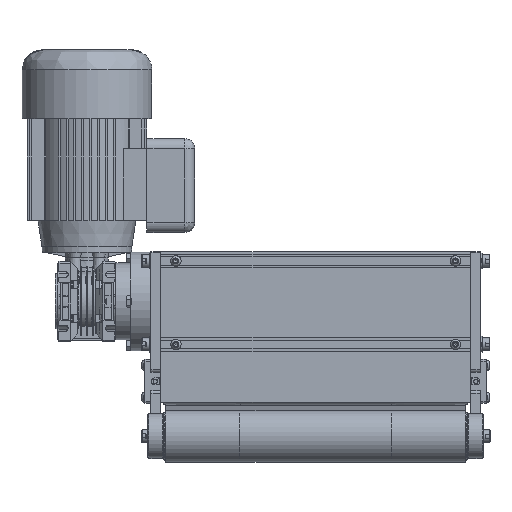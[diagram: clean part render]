
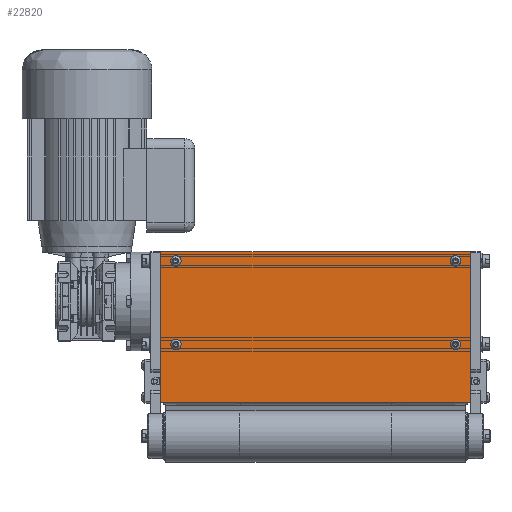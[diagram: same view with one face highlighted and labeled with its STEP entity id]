
A CAD part, left-side view. The second image highlights one B-rep face of the part: STEP entity #22820.
In plain terms, the highlighted planar face has unit normal (-1, 0, 0) as drawn and (0, 0, 1) by its records, which use the part's own axes.
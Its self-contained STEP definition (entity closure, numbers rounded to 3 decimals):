
#399 = DIRECTION ( 'NONE',  ( 1., 0., 0. ) ) ;
#988 = DIRECTION ( 'NONE',  ( 0., 0., 1. ) ) ;
#2047 = VECTOR ( 'NONE', #37861, 1000. ) ;
#3656 = FACE_BOUND ( 'NONE', #39726, .T. ) ;
#3972 = CIRCLE ( 'NONE', #17700, 3. ) ;
#4102 = CARTESIAN_POINT ( 'NONE',  ( 310., 141.5, 150. ) ) ;
#4463 = CARTESIAN_POINT ( 'NONE',  ( 295., 0., 150. ) ) ;
#4616 = CARTESIAN_POINT ( 'NONE',  ( 298., 0., 150. ) ) ;
#7173 = VERTEX_POINT ( 'NONE', #16555 ) ;
#7652 = DIRECTION ( 'NONE',  ( 1., 0., 0. ) ) ;
#7792 = EDGE_CURVE ( 'NONE', #47604, #32198, #12424, .T. ) ;
#8246 = PLANE ( 'NONE',  #15893 ) ;
#8847 = EDGE_LOOP ( 'NONE', ( #50166 ) ) ;
#8926 = VERTEX_POINT ( 'NONE', #4616 ) ;
#9230 = EDGE_CURVE ( 'NONE', #8926, #8926, #3972, .T. ) ;
#10152 = LINE ( 'NONE', #27565, #21951 ) ;
#11140 = CIRCLE ( 'NONE', #55835, 3. ) ;
#11339 = EDGE_LOOP ( 'NONE', ( #14596 ) ) ;
#11681 = DIRECTION ( 'NONE',  ( -1., 0., 0. ) ) ;
#11686 = FACE_OUTER_BOUND ( 'NONE', #43660, .T. ) ;
#12424 = LINE ( 'NONE', #29823, #2047 ) ;
#13545 = DIRECTION ( 'NONE',  ( 0., 0., 1. ) ) ;
#14596 = ORIENTED_EDGE ( 'NONE', *, *, #16789, .F. ) ;
#15236 = EDGE_CURVE ( 'NONE', #32198, #19511, #10152, .T. ) ;
#15893 = AXIS2_PLACEMENT_3D ( 'NONE', #29661, #38249, #42825 ) ;
#16225 = FACE_BOUND ( 'NONE', #8847, .T. ) ;
#16486 = VERTEX_POINT ( 'NONE', #29910 ) ;
#16555 = CARTESIAN_POINT ( 'NONE',  ( 18., 0., 150. ) ) ;
#16789 = EDGE_CURVE ( 'NONE', #7173, #7173, #11140, .T. ) ;
#17226 = CARTESIAN_POINT ( 'NONE',  ( 15., 83.5, 150. ) ) ;
#17262 = CARTESIAN_POINT ( 'NONE',  ( 15., 0., 150. ) ) ;
#17451 = ORIENTED_EDGE ( 'NONE', *, *, #29670, .F. ) ;
#17700 = AXIS2_PLACEMENT_3D ( 'NONE', #4463, #988, #7652 ) ;
#18223 = CIRCLE ( 'NONE', #52886, 3. ) ;
#19511 = VERTEX_POINT ( 'NONE', #22859 ) ;
#19799 = CARTESIAN_POINT ( 'NONE',  ( 295., 83.5, 150. ) ) ;
#21534 = DIRECTION ( 'NONE',  ( 0., 0., 1. ) ) ;
#21718 = EDGE_CURVE ( 'NONE', #21920, #19511, #52493, .T. ) ;
#21920 = VERTEX_POINT ( 'NONE', #33590 ) ;
#21951 = VECTOR ( 'NONE', #45280, 1000. ) ;
#22820 = ADVANCED_FACE ( 'NONE', ( #3656, #47101, #16225, #50823, #11686 ), #8246, .T. ) ;
#22859 = CARTESIAN_POINT ( 'NONE',  ( 0., 141.5, 150. ) ) ;
#24612 = ORIENTED_EDGE ( 'NONE', *, *, #9230, .F. ) ;
#25188 = EDGE_LOOP ( 'NONE', ( #24612 ) ) ;
#25813 = ORIENTED_EDGE ( 'NONE', *, *, #7792, .T. ) ;
#26848 = CIRCLE ( 'NONE', #38742, 3. ) ;
#27565 = CARTESIAN_POINT ( 'NONE',  ( 461.03, 141.5, 150. ) ) ;
#28363 = DIRECTION ( 'NONE',  ( 1., 0., 0. ) ) ;
#29661 = CARTESIAN_POINT ( 'NONE',  ( 461.03, 141.5, 150. ) ) ;
#29670 = EDGE_CURVE ( 'NONE', #16486, #16486, #18223, .T. ) ;
#29823 = CARTESIAN_POINT ( 'NONE',  ( 310., 141.5, 150. ) ) ;
#29910 = CARTESIAN_POINT ( 'NONE',  ( 18., 83.5, 150. ) ) ;
#30763 = CARTESIAN_POINT ( 'NONE',  ( 0., 141.5, 150. ) ) ;
#31999 = VECTOR ( 'NONE', #11681, 1000. ) ;
#32198 = VERTEX_POINT ( 'NONE', #4102 ) ;
#33590 = CARTESIAN_POINT ( 'NONE',  ( 0., -9.5, 150. ) ) ;
#35318 = ORIENTED_EDGE ( 'NONE', *, *, #15236, .T. ) ;
#35921 = DIRECTION ( 'NONE',  ( 0., 1., 0. ) ) ;
#36658 = DIRECTION ( 'NONE',  ( 0., 0., 1. ) ) ;
#37861 = DIRECTION ( 'NONE',  ( 0., 1., 0. ) ) ;
#38249 = DIRECTION ( 'NONE',  ( 0., 0., 1. ) ) ;
#38742 = AXIS2_PLACEMENT_3D ( 'NONE', #19799, #36658, #28363 ) ;
#39285 = CARTESIAN_POINT ( 'NONE',  ( 310., -9.5, 150. ) ) ;
#39726 = EDGE_LOOP ( 'NONE', ( #17451 ) ) ;
#41900 = VERTEX_POINT ( 'NONE', #56355 ) ;
#41962 = EDGE_CURVE ( 'NONE', #47604, #21920, #46823, .T. ) ;
#42825 = DIRECTION ( 'NONE',  ( 1., 0., 0. ) ) ;
#43660 = EDGE_LOOP ( 'NONE', ( #53865, #25813, #35318, #53997 ) ) ;
#44102 = DIRECTION ( 'NONE',  ( 1., 0., 0. ) ) ;
#45280 = DIRECTION ( 'NONE',  ( -1., 0., 0. ) ) ;
#46553 = EDGE_CURVE ( 'NONE', #41900, #41900, #26848, .T. ) ;
#46823 = LINE ( 'NONE', #47381, #31999 ) ;
#47101 = FACE_BOUND ( 'NONE', #11339, .T. ) ;
#47381 = CARTESIAN_POINT ( 'NONE',  ( 461.03, -9.5, 150. ) ) ;
#47604 = VERTEX_POINT ( 'NONE', #39285 ) ;
#50166 = ORIENTED_EDGE ( 'NONE', *, *, #46553, .F. ) ;
#50294 = VECTOR ( 'NONE', #35921, 1000. ) ;
#50823 = FACE_BOUND ( 'NONE', #25188, .T. ) ;
#52493 = LINE ( 'NONE', #30763, #50294 ) ;
#52886 = AXIS2_PLACEMENT_3D ( 'NONE', #17226, #21534, #44102 ) ;
#53865 = ORIENTED_EDGE ( 'NONE', *, *, #41962, .F. ) ;
#53997 = ORIENTED_EDGE ( 'NONE', *, *, #21718, .F. ) ;
#55835 = AXIS2_PLACEMENT_3D ( 'NONE', #17262, #13545, #399 ) ;
#56355 = CARTESIAN_POINT ( 'NONE',  ( 298., 83.5, 150. ) ) ;
